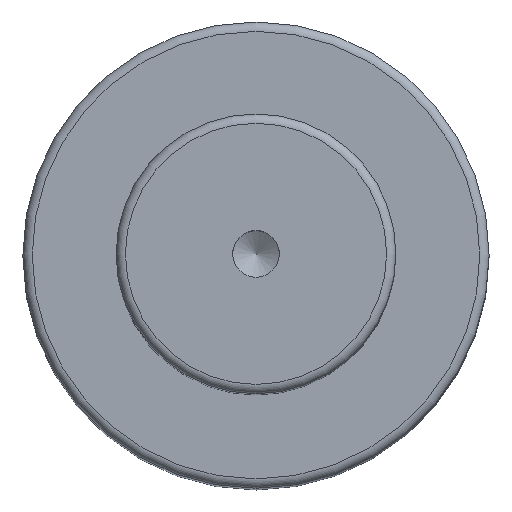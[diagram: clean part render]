
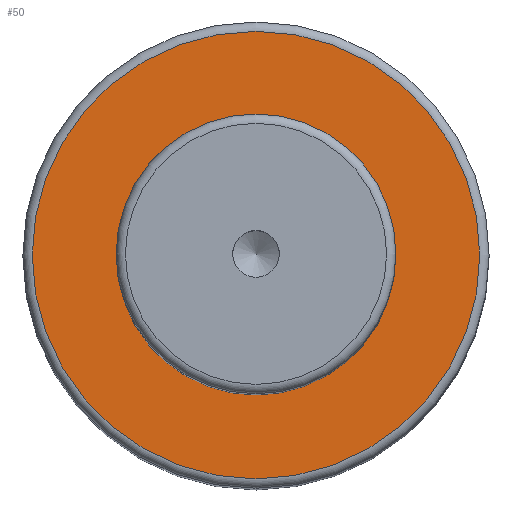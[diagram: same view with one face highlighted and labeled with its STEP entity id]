
A CAD part, top view. The second image highlights one B-rep face of the part: STEP entity #50.
In plain terms, the highlighted planar face has unit normal (0, 0, 1).
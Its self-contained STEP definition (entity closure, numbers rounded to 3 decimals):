
#40=PLANE('',#179);
#50=ADVANCED_FACE('',(#72,#73),#40,.F.);
#72=FACE_BOUND('',#96,.T.);
#73=FACE_BOUND('',#97,.T.);
#96=EDGE_LOOP('',(#118));
#97=EDGE_LOOP('',(#119));
#118=ORIENTED_EDGE('',*,*,#149,.F.);
#119=ORIENTED_EDGE('',*,*,#148,.T.);
#135=VERTEX_POINT('',#256);
#136=VERTEX_POINT('',#259);
#148=EDGE_CURVE('',#135,#135,#159,.T.);
#149=EDGE_CURVE('',#136,#136,#160,.T.);
#159=CIRCLE('',#176,15.);
#160=CIRCLE('',#178,24.);
#176=AXIS2_PLACEMENT_3D('',#255,#213,#214);
#178=AXIS2_PLACEMENT_3D('',#258,#217,#218);
#179=AXIS2_PLACEMENT_3D('',#260,#219,#220);
#213=DIRECTION('',(0.,0.,-1.));
#214=DIRECTION('',(-1.,0.,0.));
#217=DIRECTION('',(0.,0.,-1.));
#218=DIRECTION('',(-1.,0.,0.));
#219=DIRECTION('',(0.,0.,-1.));
#220=DIRECTION('',(-1.,0.,0.));
#255=CARTESIAN_POINT('',(0.,0.,109.));
#256=CARTESIAN_POINT('',(-15.,0.,109.));
#258=CARTESIAN_POINT('',(0.,0.,109.));
#259=CARTESIAN_POINT('',(-24.,0.,109.));
#260=CARTESIAN_POINT('',(15.,0.,109.));
